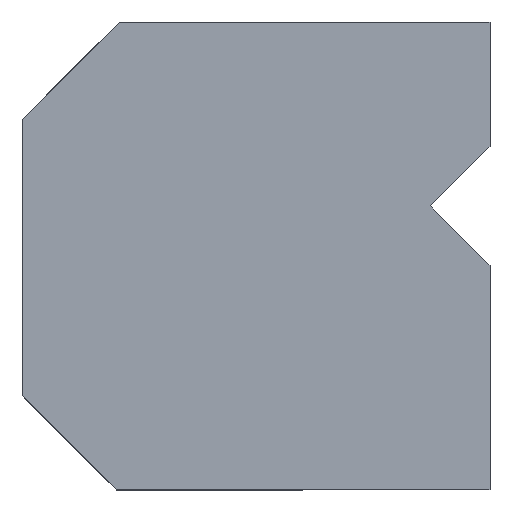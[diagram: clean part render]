
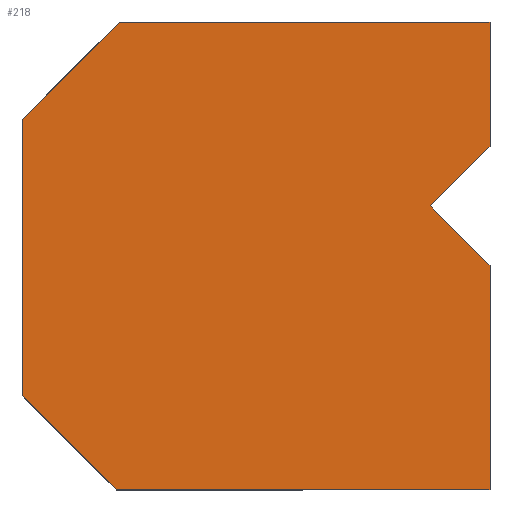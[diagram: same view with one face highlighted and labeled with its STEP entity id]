
A CAD part, front view. The second image highlights one B-rep face of the part: STEP entity #218.
In plain terms, the highlighted planar face has unit normal (0, -1, 0).
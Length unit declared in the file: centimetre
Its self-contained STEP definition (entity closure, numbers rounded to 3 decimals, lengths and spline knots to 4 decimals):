
#25 = ORIENTED_EDGE ( 'NONE', *, *, #338, .T. ) ;
#44 = VERTEX_POINT ( 'NONE', #1349 ) ;
#57 = CARTESIAN_POINT ( 'NONE',  ( 871.891, 0., 606.9081 ) ) ;
#62 = EDGE_CURVE ( 'NONE', #459, #122, #1249, .T. ) ;
#63 = DIRECTION ( 'NONE',  ( 0., 0., -1. ) ) ;
#73 = LINE ( 'NONE', #952, #78 ) ;
#78 = VECTOR ( 'NONE', #1385, 100. ) ;
#110 = EDGE_LOOP ( 'NONE', ( #1340, #1093, #1205, #1277, #684, #1213, #602, #25, #503 ) ) ;
#112 = VECTOR ( 'NONE', #960, 100. ) ;
#122 = VERTEX_POINT ( 'NONE', #617 ) ;
#127 = CARTESIAN_POINT ( 'NONE',  ( 1000., 0., 0. ) ) ;
#143 = VECTOR ( 'NONE', #269, 100. ) ;
#145 = VECTOR ( 'NONE', #308, 100. ) ;
#178 = LINE ( 'NONE', #955, #112 ) ;
#183 = EDGE_CURVE ( 'NONE', #459, #284, #73, .T. ) ;
#218 = ADVANCED_FACE ( 'NONE', ( #243 ), #561, .F. ) ;
#243 = FACE_OUTER_BOUND ( 'NONE', #110, .T. ) ;
#250 = EDGE_CURVE ( 'NONE', #1083, #1113, #1320, .T. ) ;
#269 = DIRECTION ( 'NONE',  ( 1., 0., 0. ) ) ;
#284 = VERTEX_POINT ( 'NONE', #998 ) ;
#308 = DIRECTION ( 'NONE',  ( 0., 0., -1. ) ) ;
#310 = LINE ( 'NONE', #433, #1034 ) ;
#331 = DIRECTION ( 'NONE',  ( -0.707, 0., 0.707 ) ) ;
#338 = EDGE_CURVE ( 'NONE', #458, #987, #373, .T. ) ;
#350 = VECTOR ( 'NONE', #331, 100. ) ;
#373 = LINE ( 'NONE', #1135, #649 ) ;
#380 = VERTEX_POINT ( 'NONE', #1364 ) ;
#396 = CARTESIAN_POINT ( 'NONE',  ( 0., 0., 1000. ) ) ;
#411 = EDGE_CURVE ( 'NONE', #122, #44, #708, .T. ) ;
#414 = LINE ( 'NONE', #528, #145 ) ;
#433 = CARTESIAN_POINT ( 'NONE',  ( 0., 0., 1000. ) ) ;
#458 = VERTEX_POINT ( 'NONE', #1063 ) ;
#459 = VERTEX_POINT ( 'NONE', #634 ) ;
#487 = EDGE_CURVE ( 'NONE', #1083, #987, #414, .T. ) ;
#490 = DIRECTION ( 'NONE',  ( 1., 0., 0. ) ) ;
#491 = VECTOR ( 'NONE', #859, 100. ) ;
#503 = ORIENTED_EDGE ( 'NONE', *, *, #487, .F. ) ;
#528 = CARTESIAN_POINT ( 'NONE',  ( 1000., 0., 1000. ) ) ;
#561 = PLANE ( 'NONE',  #870 ) ;
#602 = ORIENTED_EDGE ( 'NONE', *, *, #850, .T. ) ;
#603 = EDGE_CURVE ( 'NONE', #284, #380, #310, .T. ) ;
#617 = CARTESIAN_POINT ( 'NONE',  ( 1000., 0., 1000. ) ) ;
#634 = CARTESIAN_POINT ( 'NONE',  ( 207.8679, 0., 1000. ) ) ;
#649 = VECTOR ( 'NONE', #490, 100. ) ;
#655 = LINE ( 'NONE', #1291, #491 ) ;
#670 = CARTESIAN_POINT ( 'NONE',  ( 1000., 0., 478.7991 ) ) ;
#684 = ORIENTED_EDGE ( 'NONE', *, *, #183, .T. ) ;
#708 = LINE ( 'NONE', #1035, #1188 ) ;
#730 = EDGE_CURVE ( 'NONE', #1113, #44, #178, .T. ) ;
#744 = DIRECTION ( 'NONE',  ( 0., 0., -1. ) ) ;
#778 = CARTESIAN_POINT ( 'NONE',  ( 0., 0., 1000. ) ) ;
#850 = EDGE_CURVE ( 'NONE', #380, #458, #655, .T. ) ;
#859 = DIRECTION ( 'NONE',  ( 0.707, 0., -0.707 ) ) ;
#870 = AXIS2_PLACEMENT_3D ( 'NONE', #778, #882, #1089 ) ;
#882 = DIRECTION ( 'NONE',  ( 0., 1., 0. ) ) ;
#952 = CARTESIAN_POINT ( 'NONE',  ( 207.8679, 0., 1000. ) ) ;
#955 = CARTESIAN_POINT ( 'NONE',  ( 871.891, 0., 606.9081 ) ) ;
#960 = DIRECTION ( 'NONE',  ( 0.707, 0., 0.707 ) ) ;
#987 = VERTEX_POINT ( 'NONE', #127 ) ;
#998 = CARTESIAN_POINT ( 'NONE',  ( 0., 0., 792.1321 ) ) ;
#1034 = VECTOR ( 'NONE', #744, 100. ) ;
#1035 = CARTESIAN_POINT ( 'NONE',  ( 1000., 0., 1000. ) ) ;
#1063 = CARTESIAN_POINT ( 'NONE',  ( 200.916, 0., 0. ) ) ;
#1083 = VERTEX_POINT ( 'NONE', #1235 ) ;
#1089 = DIRECTION ( 'NONE',  ( 0., 0., 1. ) ) ;
#1093 = ORIENTED_EDGE ( 'NONE', *, *, #730, .T. ) ;
#1113 = VERTEX_POINT ( 'NONE', #57 ) ;
#1135 = CARTESIAN_POINT ( 'NONE',  ( 0., 0., 0. ) ) ;
#1188 = VECTOR ( 'NONE', #63, 100. ) ;
#1205 = ORIENTED_EDGE ( 'NONE', *, *, #411, .F. ) ;
#1213 = ORIENTED_EDGE ( 'NONE', *, *, #603, .T. ) ;
#1235 = CARTESIAN_POINT ( 'NONE',  ( 1000., 0., 478.7991 ) ) ;
#1249 = LINE ( 'NONE', #396, #143 ) ;
#1277 = ORIENTED_EDGE ( 'NONE', *, *, #62, .F. ) ;
#1291 = CARTESIAN_POINT ( 'NONE',  ( 0., 0., 200.916 ) ) ;
#1320 = LINE ( 'NONE', #670, #350 ) ;
#1340 = ORIENTED_EDGE ( 'NONE', *, *, #250, .T. ) ;
#1349 = CARTESIAN_POINT ( 'NONE',  ( 1000., 0., 735.0171 ) ) ;
#1364 = CARTESIAN_POINT ( 'NONE',  ( 0., 0., 200.916 ) ) ;
#1385 = DIRECTION ( 'NONE',  ( -0.707, 0., -0.707 ) ) ;
